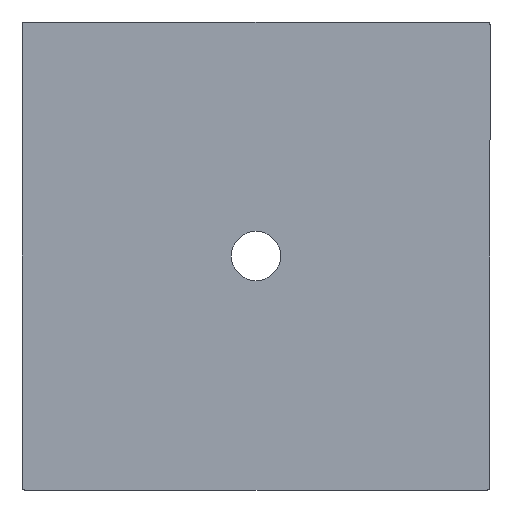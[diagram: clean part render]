
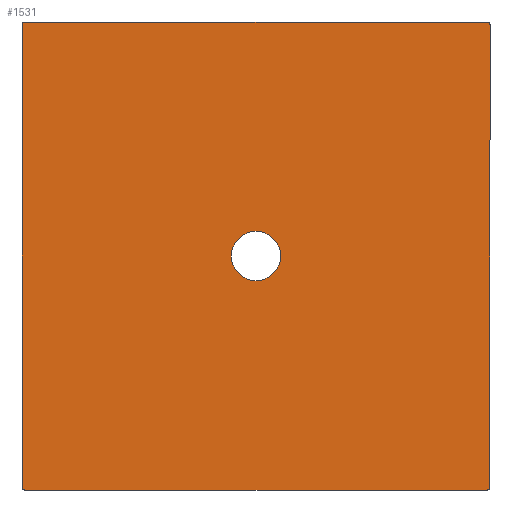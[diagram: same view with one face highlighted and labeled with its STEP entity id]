
A CAD part, front view. The second image highlights one B-rep face of the part: STEP entity #1531.
In plain terms, the highlighted planar face has unit normal (0, -1, 0).
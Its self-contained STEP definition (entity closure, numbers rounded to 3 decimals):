
#15 = VERTEX_POINT ( 'NONE', #2211 ) ;
#100 = LINE ( 'NONE', #2278, #2042 ) ;
#143 = ORIENTED_EDGE ( 'NONE', *, *, #1226, .T. ) ;
#146 = DIRECTION ( 'NONE',  ( -1., 0., 0. ) ) ;
#205 = CARTESIAN_POINT ( 'NONE',  ( 0., 0., -47.5 ) ) ;
#245 = DIRECTION ( 'NONE',  ( 0., 1., 0. ) ) ;
#248 = CARTESIAN_POINT ( 'NONE',  ( -450., 0., -450. ) ) ;
#259 = CARTESIAN_POINT ( 'NONE',  ( -447.929, 0., 450. ) ) ;
#271 = CARTESIAN_POINT ( 'NONE',  ( -445.001, 0., 450. ) ) ;
#276 = VERTEX_POINT ( 'NONE', #339 ) ;
#277 =( BOUNDED_CURVE ( )  B_SPLINE_CURVE ( 3, ( #1737, #748, #2330, #1538 ),
 .UNSPECIFIED., .F., .T. ) 
 B_SPLINE_CURVE_WITH_KNOTS ( ( 4, 4 ),
 ( 5.498, 7.068 ),
 .UNSPECIFIED. ) 
 CURVE ( )  GEOMETRIC_REPRESENTATION_ITEM ( )  RATIONAL_B_SPLINE_CURVE ( ( 1., 0.805, 0.805, 1. ) ) 
 REPRESENTATION_ITEM ( '' )  );
#299 = ORIENTED_EDGE ( 'NONE', *, *, #352, .F. ) ;
#314 = EDGE_CURVE ( 'NONE', #15, #441, #1104, .T. ) ;
#321 = ORIENTED_EDGE ( 'NONE', *, *, #334, .F. ) ;
#334 = EDGE_CURVE ( 'NONE', #1811, #2380, #1694, .T. ) ;
#339 = CARTESIAN_POINT ( 'NONE',  ( 450., 0., 445.001 ) ) ;
#352 = EDGE_CURVE ( 'NONE', #276, #990, #100, .T. ) ;
#421 = VECTOR ( 'NONE', #649, 1000. ) ;
#425 = CARTESIAN_POINT ( 'NONE',  ( 0., 0., 0. ) ) ;
#440 = DIRECTION ( 'NONE',  ( 0., 0., -1. ) ) ;
#441 = VERTEX_POINT ( 'NONE', #1924 ) ;
#454 = CARTESIAN_POINT ( 'NONE',  ( -450., 0., 447.929 ) ) ;
#545 = DIRECTION ( 'NONE',  ( 1., 0., 0. ) ) ;
#565 = CARTESIAN_POINT ( 'NONE',  ( -450., 0., -445.001 ) ) ;
#581 = VECTOR ( 'NONE', #545, 1000. ) ;
#590 = CARTESIAN_POINT ( 'NONE',  ( -445.001, 0., -450. ) ) ;
#616 = CARTESIAN_POINT ( 'NONE',  ( 447.929, 0., -450. ) ) ;
#632 = CARTESIAN_POINT ( 'NONE',  ( 445.001, 0., -450. ) ) ;
#649 = DIRECTION ( 'NONE',  ( 0., 0., 1. ) ) ;
#673 = LINE ( 'NONE', #248, #421 ) ;
#748 = CARTESIAN_POINT ( 'NONE',  ( 450., 0., 447.929 ) ) ;
#766 = CARTESIAN_POINT ( 'NONE',  ( -450., 0., -447.929 ) ) ;
#796 = DIRECTION ( 'NONE',  ( 0., -1., 0. ) ) ;
#803 = EDGE_CURVE ( 'NONE', #1946, #441, #1408, .T. ) ;
#807 = PLANE ( 'NONE',  #2084 ) ;
#832 = CARTESIAN_POINT ( 'NONE',  ( 450., 0., -445.001 ) ) ;
#883 =( BOUNDED_CURVE ( )  B_SPLINE_CURVE ( 3, ( #632, #616, #1589, #832 ),
 .UNSPECIFIED., .F., .T. ) 
 B_SPLINE_CURVE_WITH_KNOTS ( ( 4, 4 ),
 ( 5.498, 7.068 ),
 .UNSPECIFIED. ) 
 CURVE ( )  GEOMETRIC_REPRESENTATION_ITEM ( )  RATIONAL_B_SPLINE_CURVE ( ( 1., 0.805, 0.805, 1. ) ) 
 REPRESENTATION_ITEM ( '' )  );
#902 = CARTESIAN_POINT ( 'NONE',  ( -450., 0., 450. ) ) ;
#965 = ORIENTED_EDGE ( 'NONE', *, *, #1403, .T. ) ;
#990 = VERTEX_POINT ( 'NONE', #1573 ) ;
#1029 = DIRECTION ( 'NONE',  ( 0., 0., 1. ) ) ;
#1054 = CARTESIAN_POINT ( 'NONE',  ( -450., 0., 445.001 ) ) ;
#1104 = LINE ( 'NONE', #1313, #1998 ) ;
#1110 = AXIS2_PLACEMENT_3D ( 'NONE', #2210, #796, #440 ) ;
#1129 = ORIENTED_EDGE ( 'NONE', *, *, #1677, .T. ) ;
#1182 = CARTESIAN_POINT ( 'NONE',  ( -445.001, 0., 450. ) ) ;
#1218 = FACE_BOUND ( 'NONE', #1746, .T. ) ;
#1226 = EDGE_CURVE ( 'NONE', #15, #990, #883, .T. ) ;
#1235 = CARTESIAN_POINT ( 'NONE',  ( 445.001, 0., 450. ) ) ;
#1274 = EDGE_LOOP ( 'NONE', ( #2118, #143, #299, #1129, #321, #965, #1446, #2095 ) ) ;
#1313 = CARTESIAN_POINT ( 'NONE',  ( 450., 0., -450. ) ) ;
#1370 = EDGE_CURVE ( 'NONE', #1971, #1971, #1909, .T. ) ;
#1403 = EDGE_CURVE ( 'NONE', #1811, #2484, #1951, .T. ) ;
#1408 =( BOUNDED_CURVE ( )  B_SPLINE_CURVE ( 3, ( #565, #766, #1558, #590 ),
 .UNSPECIFIED., .F., .F. ) 
 B_SPLINE_CURVE_WITH_KNOTS ( ( 4, 4 ),
 ( 5.498, 7.068 ),
 .UNSPECIFIED. ) 
 CURVE ( )  GEOMETRIC_REPRESENTATION_ITEM ( )  RATIONAL_B_SPLINE_CURVE ( ( 1., 0.805, 0.805, 1. ) ) 
 REPRESENTATION_ITEM ( '' )  );
#1446 = ORIENTED_EDGE ( 'NONE', *, *, #2230, .F. ) ;
#1531 = ADVANCED_FACE ( 'NONE', ( #1218, #2043 ), #807, .F. ) ;
#1538 = CARTESIAN_POINT ( 'NONE',  ( 445.001, 0., 450. ) ) ;
#1558 = CARTESIAN_POINT ( 'NONE',  ( -447.929, 0., -450. ) ) ;
#1562 = CARTESIAN_POINT ( 'NONE',  ( -450., 0., -445.001 ) ) ;
#1573 = CARTESIAN_POINT ( 'NONE',  ( 450., 0., -445.001 ) ) ;
#1589 = CARTESIAN_POINT ( 'NONE',  ( 450., 0., -447.929 ) ) ;
#1618 = ORIENTED_EDGE ( 'NONE', *, *, #1370, .F. ) ;
#1677 = EDGE_CURVE ( 'NONE', #276, #2380, #277, .T. ) ;
#1694 = LINE ( 'NONE', #902, #581 ) ;
#1737 = CARTESIAN_POINT ( 'NONE',  ( 450., 0., 445.001 ) ) ;
#1746 = EDGE_LOOP ( 'NONE', ( #1618 ) ) ;
#1811 = VERTEX_POINT ( 'NONE', #1182 ) ;
#1890 = CARTESIAN_POINT ( 'NONE',  ( -450., 0., 445.001 ) ) ;
#1909 = CIRCLE ( 'NONE', #1110, 47.5 ) ;
#1924 = CARTESIAN_POINT ( 'NONE',  ( -445.001, 0., -450. ) ) ;
#1946 = VERTEX_POINT ( 'NONE', #1562 ) ;
#1951 =( BOUNDED_CURVE ( )  B_SPLINE_CURVE ( 3, ( #271, #259, #454, #1054 ),
 .UNSPECIFIED., .F., .T. ) 
 B_SPLINE_CURVE_WITH_KNOTS ( ( 4, 4 ),
 ( 5.498, 7.068 ),
 .UNSPECIFIED. ) 
 CURVE ( )  GEOMETRIC_REPRESENTATION_ITEM ( )  RATIONAL_B_SPLINE_CURVE ( ( 1., 0.805, 0.805, 1. ) ) 
 REPRESENTATION_ITEM ( '' )  );
#1971 = VERTEX_POINT ( 'NONE', #205 ) ;
#1998 = VECTOR ( 'NONE', #146, 1000. ) ;
#2042 = VECTOR ( 'NONE', #2121, 1000. ) ;
#2043 = FACE_OUTER_BOUND ( 'NONE', #1274, .T. ) ;
#2084 = AXIS2_PLACEMENT_3D ( 'NONE', #425, #245, #1029 ) ;
#2095 = ORIENTED_EDGE ( 'NONE', *, *, #803, .T. ) ;
#2118 = ORIENTED_EDGE ( 'NONE', *, *, #314, .F. ) ;
#2121 = DIRECTION ( 'NONE',  ( 0., 0., -1. ) ) ;
#2210 = CARTESIAN_POINT ( 'NONE',  ( 0., 0., 0. ) ) ;
#2211 = CARTESIAN_POINT ( 'NONE',  ( 445.001, 0., -450. ) ) ;
#2230 = EDGE_CURVE ( 'NONE', #1946, #2484, #673, .T. ) ;
#2278 = CARTESIAN_POINT ( 'NONE',  ( 450., 0., 450. ) ) ;
#2330 = CARTESIAN_POINT ( 'NONE',  ( 447.929, 0., 450. ) ) ;
#2380 = VERTEX_POINT ( 'NONE', #1235 ) ;
#2484 = VERTEX_POINT ( 'NONE', #1890 ) ;
